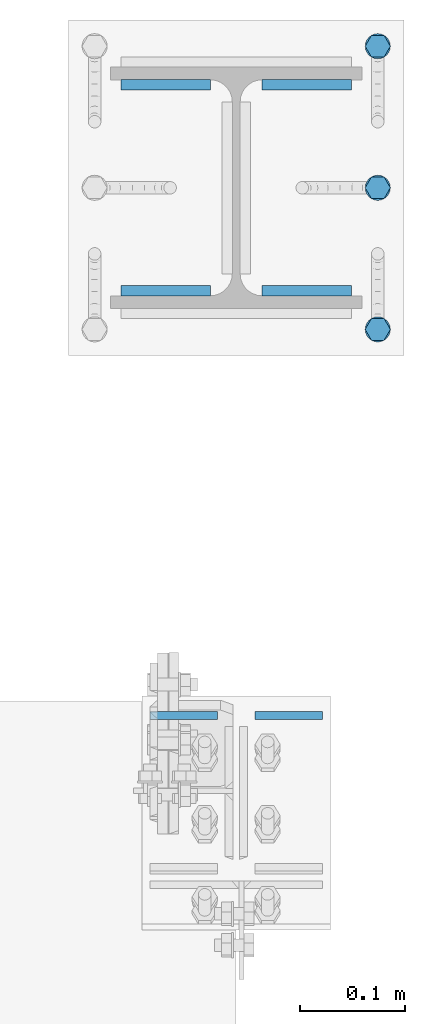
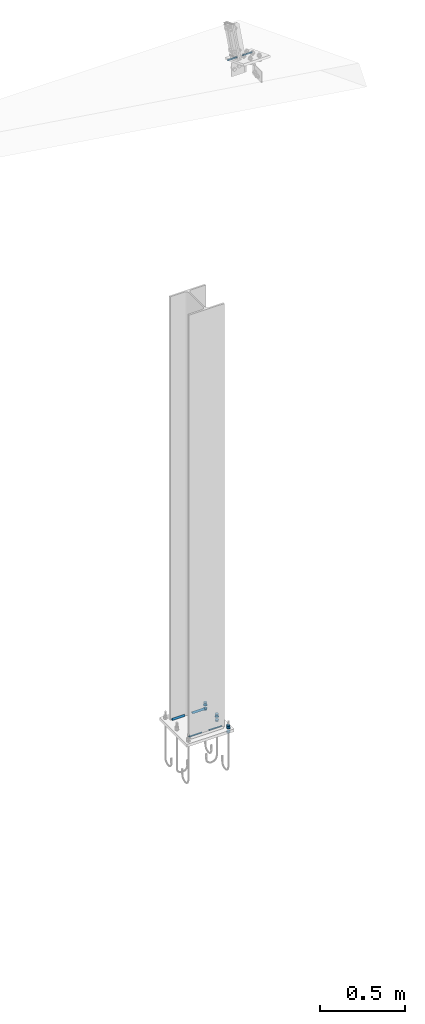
# One storey, part 71 of 72: 15 mechanical fasteners, 12 fasteners.
"""IFC4 building model written with IfcOpenShell, lengths in metres."""

from ifc_helpers import new_model, si_unit, frame, origin_with_axes, place, context, project, spatial, polyline, outline, extrude, type_object, element, save


model = new_model("IFC4")

# Units and contexts
model_context = context("Model", 3, precision=1e-05, world=origin_with_axes())
ifc_project = project(units=[si_unit("LENGTHUNIT", "METRE"), si_unit("AREAUNIT", "SQUARE_METRE"), si_unit("VOLUMEUNIT", "CUBIC_METRE"), si_unit("MASSUNIT", "GRAM", prefix="KILO"), si_unit("TIMEUNIT", "SECOND"), si_unit("PLANEANGLEUNIT", "RADIAN"), si_unit("SOLIDANGLEUNIT", "STERADIAN"), si_unit("THERMODYNAMICTEMPERATUREUNIT", "DEGREE_CELSIUS")], contexts=[model_context])

# Site, building, storey
placement_1 = place(None, origin_with_axes())
site = spatial("IfcSite", under=ifc_project, at=placement_1, Name="Italia", CompositionType="ELEMENT")
building = spatial("IfcBuilding", under=site, at=placement_1, Name="Uffici", CompositionType="ELEMENT")
storey = spatial("IfcBuildingStorey", under=building, at=placement_1, Name="Storey 0", CompositionType="ELEMENT", Elevation=0.0)

# Fasteners
fastener_type_1 = type_object("IfcFastenerType", Name="Collegamenti 0001_0101 0002_0102 0003_0103 0004_0104 0005_0105 0011_0111 0012_0112 0013_0113 0014_0114 0015_0115", PredefinedType="WELD")
placement_2 = place(placement_1, origin_with_axes())
fastener_1_placement = place(placement_2, origin_with_axes())
element("IfcFastener", 1, at=fastener_1_placement, inside=storey, type_object=fastener_type_1, Name="Collegamenti 0001_0101 0002_0102 0003_0103 0004_0104 0005_0105 0011_0111 0012_0112 0013_0113 0014_0114 0015_0115", context=model_context, shape_type="SweptSolid", body=[
    extrude(outline(polyline([(0.0, 0.0), (0.00986814, 0.0101734), (0.00986814, 0.0), (0.0, 0.0)])), frame((13.9947, 5.48318, 0.01995), z_axis=(1.0, 0.0, 0.0), x_axis=(0.0, 1.0, 0.0)), (0.0, 0.0, 1.0), 0.08535),
])
fastener_type_2 = type_object("IfcFastenerType", Name="Collegamenti 0001_0101 0002_0102 0003_0103 0004_0104 0005_0105 0011_0111 0012_0112 0013_0113 0014_0114 0015_0115", PredefinedType="WELD")
fastener_2_placement = place(placement_2, origin_with_axes())
element("IfcFastener", 2, at=fastener_2_placement, inside=storey, type_object=fastener_type_2, Name="Collegamenti 0001_0101 0002_0102 0003_0103 0004_0104 0005_0105 0011_0111 0012_0112 0013_0113 0014_0114 0015_0115", context=model_context, shape_type="SweptSolid", body=[
    extrude(outline(polyline([(0.0, 0.0), (0.00986814, 0.0101734), (0.00986814, 0.0), (0.0, 0.0)])), frame((14.0801, 5.29682, 0.01995), z_axis=(-1.0, 0.0, 0.0), x_axis=(0.0, -1.0, 0.0)), (0.0, 0.0, 1.0), 0.08535),
])
fastener_type_3 = type_object("IfcFastenerType", Name="Collegamenti 0001_0101 0002_0102 0003_0103 0004_0104 0005_0105 0011_0111 0012_0112 0013_0113 0014_0114 0015_0115", PredefinedType="WELD")
fastener_3_placement = place(placement_2, origin_with_axes())
element("IfcFastener", 3, at=fastener_3_placement, inside=storey, type_object=fastener_type_3, Name="Collegamenti 0001_0101 0002_0102 0003_0103 0004_0104 0005_0105 0011_0111 0012_0112 0013_0113 0014_0114 0015_0115", context=model_context, shape_type="SweptSolid", body=[
    extrude(outline(polyline([(0.0, 0.0), (0.00986814, 0.0101734), (0.00986814, 0.0), (0.0, 0.0)])), frame((13.9453, 5.29682, 0.01995), z_axis=(-1.0, 0.0, 0.0), x_axis=(0.0, -1.0, 0.0)), (0.0, 0.0, 1.0), 0.08535),
])
fastener_type_4 = type_object("IfcFastenerType", Name="Collegamenti 0001_0101 0002_0102 0003_0103 0004_0104 0005_0105 0011_0111 0012_0112 0013_0113 0014_0114 0015_0115", PredefinedType="WELD")
fastener_4_placement = place(placement_2, origin_with_axes())
element("IfcFastener", 4, at=fastener_4_placement, inside=storey, type_object=fastener_type_4, Name="Collegamenti 0001_0101 0002_0102 0003_0103 0004_0104 0005_0105 0011_0111 0012_0112 0013_0113 0014_0114 0015_0115", context=model_context, shape_type="SweptSolid", body=[
    extrude(outline(polyline([(0.0, 0.0), (0.00986814, 0.0101734), (0.00986814, 0.0), (0.0, 0.0)])), frame((13.86, 5.48318, 0.01995), z_axis=(1.0, 0.0, 0.0), x_axis=(0.0, 1.0, 0.0)), (0.0, 0.0, 1.0), 0.08535),
])
fastener_type_5 = type_object("IfcFastenerType", Name="Collegamenti 0001_0101 0002_0102 0003_0103 0004_0104 0005_0105 0011_0111 0012_0112 0013_0113 0014_0114 0015_0115", PredefinedType="WELD")
fastener_5_placement = place(placement_2, origin_with_axes())
element("IfcFastener", 5, at=fastener_5_placement, inside=storey, type_object=fastener_type_5, Name="Collegamenti 0001_0101 0002_0102 0003_0103 0004_0104 0005_0105 0011_0111 0012_0112 0013_0113 0014_0114 0015_0115", context=model_context, shape_type="SweptSolid", body=[
    extrude(outline(polyline([(0.0, 0.0), (0.00986814, 0.0101734), (0.00986814, 0.0), (0.0, 0.0)])), frame((13.9947, 5.48318, 0.01995), z_axis=(1.0, 0.0, 0.0), x_axis=(0.0, 1.0, 0.0)), (0.0, 0.0, 1.0), 0.08535),
])
fastener_type_6 = type_object("IfcFastenerType", Name="Collegamenti 0001_0101 0002_0102 0003_0103 0004_0104 0005_0105 0011_0111 0012_0112 0013_0113 0014_0114 0015_0115", PredefinedType="WELD")
fastener_6_placement = place(placement_2, origin_with_axes())
element("IfcFastener", 6, at=fastener_6_placement, inside=storey, type_object=fastener_type_6, Name="Collegamenti 0001_0101 0002_0102 0003_0103 0004_0104 0005_0105 0011_0111 0012_0112 0013_0113 0014_0114 0015_0115", context=model_context, shape_type="SweptSolid", body=[
    extrude(outline(polyline([(0.0, 0.0), (0.00986814, 0.0101734), (0.00986814, 0.0), (0.0, 0.0)])), frame((14.0801, 5.29682, 0.01995), z_axis=(-1.0, 0.0, 0.0), x_axis=(0.0, -1.0, 0.0)), (0.0, 0.0, 1.0), 0.08535),
])
fastener_type_7 = type_object("IfcFastenerType", Name="Collegamenti 0001_0101 0002_0102 0003_0103 0004_0104 0005_0105 0011_0111 0012_0112 0013_0113 0014_0114 0015_0115", PredefinedType="WELD")
fastener_7_placement = place(placement_2, origin_with_axes())
element("IfcFastener", 7, at=fastener_7_placement, inside=storey, type_object=fastener_type_7, Name="Collegamenti 0001_0101 0002_0102 0003_0103 0004_0104 0005_0105 0011_0111 0012_0112 0013_0113 0014_0114 0015_0115", context=model_context, shape_type="SweptSolid", body=[
    extrude(outline(polyline([(0.0, 0.0), (0.00986814, 0.0101734), (0.00986814, 0.0), (0.0, 0.0)])), frame((13.9453, 5.29682, 0.01995), z_axis=(-1.0, 0.0, 0.0), x_axis=(0.0, -1.0, 0.0)), (0.0, 0.0, 1.0), 0.08535),
])
fastener_type_8 = type_object("IfcFastenerType", Name="Collegamenti 0001_0101 0002_0102 0003_0103 0004_0104 0005_0105 0011_0111 0012_0112 0013_0113 0014_0114 0015_0115", PredefinedType="WELD")
fastener_8_placement = place(placement_2, origin_with_axes())
element("IfcFastener", 8, at=fastener_8_placement, inside=storey, type_object=fastener_type_8, Name="Collegamenti 0001_0101 0002_0102 0003_0103 0004_0104 0005_0105 0011_0111 0012_0112 0013_0113 0014_0114 0015_0115", context=model_context, shape_type="SweptSolid", body=[
    extrude(outline(polyline([(0.0, 0.0), (0.00986814, 0.0101734), (0.00986814, 0.0), (0.0, 0.0)])), frame((13.86, 5.48318, 0.01995), z_axis=(1.0, 0.0, 0.0), x_axis=(0.0, 1.0, 0.0)), (0.0, 0.0, 1.0), 0.08535),
])

# Mechanical fasteners
mechanical_fastener_type_1 = type_object("IfcMechanicalFastenerType", Name="Collegamenti 0001_0101 0002_0102 0003_0103 0004_0104 0005_0105 0011_0111 0012_0112 0013_0113 0014_0114 0015_0115", PredefinedType="BOLT")
mechanical_fastener_1_placement = place(placement_2, origin_with_axes())
element("IfcMechanicalFastener", 9, at=mechanical_fastener_1_placement, inside=storey, type_object=mechanical_fastener_type_1, Name="Collegamenti 0001_0101 0002_0102 0003_0103 0004_0104 0005_0105 0011_0111 0012_0112 0013_0113 0014_0114 0015_0115", NominalDiameter=0.0119997, context=model_context, shape_type="SweptSolid", body=[
    extrude(outline(polyline([(0.0, 0.0), (0.0, 0.0120001), (0.0103922, 0.0179996), (0.0207849, 0.0120001), (0.0207849, 0.0), (0.0103922, -0.00600052), (0.0, 0.0)])), frame((14.111, 5.24461, 0.022), z_axis=(0.0, 0.0, 1.0), x_axis=(0.0, 1.0, 0.0)), (0.0, 0.0, 1.0), 0.0096),
])
mechanical_fastener_type_2 = type_object("IfcMechanicalFastenerType", Name="Collegamenti 0001_0101 0002_0102 0003_0103 0004_0104 0005_0105 0011_0111 0012_0112 0013_0113 0014_0114 0015_0115", PredefinedType="BOLT")
mechanical_fastener_2_placement = place(placement_2, origin_with_axes())
element("IfcMechanicalFastener", 10, at=mechanical_fastener_2_placement, inside=storey, type_object=mechanical_fastener_type_2, Name="Collegamenti 0001_0101 0002_0102 0003_0103 0004_0104 0005_0105 0011_0111 0012_0112 0013_0113 0014_0114 0015_0115", NominalDiameter=0.0119997, context=model_context, shape_type="SweptSolid", body=[
    extrude(outline(polyline([(0.0, 0.0), (0.0, 0.0120001), (0.0103922, 0.0179996), (0.0207849, 0.0120001), (0.0207849, 0.0), (0.0103922, -0.00600052), (0.0, 0.0)])), frame((14.111, 5.24461, 0.0316), z_axis=(0.0, 0.0, 1.0), x_axis=(0.0, 1.0, 0.0)), (0.0, 0.0, 1.0), 0.0096),
])
mechanical_fastener_type_3 = type_object("IfcMechanicalFastenerType", Name="Collegamenti 0001_0101 0002_0102 0003_0103 0004_0104 0005_0105 0011_0111 0012_0112 0013_0113 0014_0114 0015_0115", PredefinedType="BOLT")
mechanical_fastener_3_placement = place(placement_2, origin_with_axes())
element("IfcMechanicalFastener", 11, at=mechanical_fastener_3_placement, inside=storey, type_object=mechanical_fastener_type_3, Name="Collegamenti 0001_0101 0002_0102 0003_0103 0004_0104 0005_0105 0011_0111 0012_0112 0013_0113 0014_0114 0015_0115", NominalDiameter=0.0119997, context=model_context, shape_type="SweptSolid", body=[
    extrude(outline(polyline([(0.0, 0.0), (0.0, 0.0120001), (0.0103922, 0.0179996), (0.0207849, 0.0120001), (0.0207849, 0.0), (0.0103922, -0.00600052), (0.0, 0.0)])), frame((14.111, 5.24461, -0.0116), z_axis=(0.0, 0.0, 1.0), x_axis=(0.0, 1.0, 0.0)), (0.0, 0.0, 1.0), 0.0096),
])
mechanical_fastener_type_4 = type_object("IfcMechanicalFastenerType", Name="Collegamenti 0001_0101 0002_0102 0003_0103 0004_0104 0005_0105 0011_0111 0012_0112 0013_0113 0014_0114 0015_0115", PredefinedType="BOLT")
mechanical_fastener_4_placement = place(placement_2, origin_with_axes())
element("IfcMechanicalFastener", 12, at=mechanical_fastener_4_placement, inside=storey, type_object=mechanical_fastener_type_4, Name="Collegamenti 0001_0101 0002_0102 0003_0103 0004_0104 0005_0105 0011_0111 0012_0112 0013_0113 0014_0114 0015_0115", NominalDiameter=0.024, context=model_context, shape_type="SweptSolid", body=[
    extrude(outline(polyline([(0.0, 0.0), (-0.000409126, -0.00310612), (-0.00160789, -0.00599957), (-0.00351477, -0.00848484), (-0.00600004, -0.0103922), (-0.00889444, -0.011591), (-0.0120001, -0.0120001), (-0.0151057, -0.011591), (-0.0180001, -0.0103922), (-0.0204854, -0.00848484), (-0.0223923, -0.00599957), (-0.023591, -0.00310612), (-0.0240002, 0.0), (-0.023591, 0.00310612), (-0.0223923, 0.00599957), (-0.0204854, 0.00848484), (-0.0180001, 0.0103922), (-0.0151057, 0.011591), (-0.0120001, 0.0120001), (-0.00889444, 0.011591), (-0.00600004, 0.0103922), (-0.00351477, 0.00848484), (-0.00160789, 0.00599957), (-0.000409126, 0.00310612), (0.0, 0.0)])), frame((14.105, 5.267, 0.02), z_axis=(0.0, 0.0, 1.0), x_axis=(0.0, 1.0, 0.0)), (0.0, 0.0, 1.0), 0.002),
])
mechanical_fastener_type_5 = type_object("IfcMechanicalFastenerType", Name="Collegamenti 0001_0101 0002_0102 0003_0103 0004_0104 0005_0105 0011_0111 0012_0112 0013_0113 0014_0114 0015_0115", PredefinedType="BOLT")
mechanical_fastener_5_placement = place(placement_2, origin_with_axes())
element("IfcMechanicalFastener", 13, at=mechanical_fastener_5_placement, inside=storey, type_object=mechanical_fastener_type_5, Name="Collegamenti 0001_0101 0002_0102 0003_0103 0004_0104 0005_0105 0011_0111 0012_0112 0013_0113 0014_0114 0015_0115", NominalDiameter=0.024, context=model_context, shape_type="SweptSolid", body=[
    extrude(outline(polyline([(0.0, 0.0), (-0.000409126, -0.00310612), (-0.00160789, -0.00599957), (-0.00351477, -0.00848484), (-0.00600004, -0.0103922), (-0.00889444, -0.011591), (-0.0120001, -0.0120001), (-0.0151057, -0.011591), (-0.0180001, -0.0103922), (-0.0204854, -0.00848484), (-0.0223923, -0.00599957), (-0.023591, -0.00310612), (-0.0240002, 0.0), (-0.023591, 0.00310612), (-0.0223923, 0.00599957), (-0.0204854, 0.00848484), (-0.0180001, 0.0103922), (-0.0151057, 0.011591), (-0.0120001, 0.0120001), (-0.00889444, 0.011591), (-0.00600004, 0.0103922), (-0.00351477, 0.00848484), (-0.00160789, 0.00599957), (-0.000409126, 0.00310612), (0.0, 0.0)])), frame((14.105, 5.267, -0.002), z_axis=(0.0, 0.0, 1.0), x_axis=(0.0, 1.0, 0.0)), (0.0, 0.0, 1.0), 0.002),
])
mechanical_fastener_type_6 = type_object("IfcMechanicalFastenerType", Name="Collegamenti 0001_0101 0002_0102 0003_0103 0004_0104 0005_0105 0011_0111 0012_0112 0013_0113 0014_0114 0015_0115", PredefinedType="BOLT")
mechanical_fastener_6_placement = place(placement_2, origin_with_axes())
element("IfcMechanicalFastener", 14, at=mechanical_fastener_6_placement, inside=storey, type_object=mechanical_fastener_type_6, Name="Collegamenti 0001_0101 0002_0102 0003_0103 0004_0104 0005_0105 0011_0111 0012_0112 0013_0113 0014_0114 0015_0115", NominalDiameter=0.0119997, context=model_context, shape_type="SweptSolid", body=[
    extrude(outline(polyline([(0.0, 0.0), (0.0, 0.0120001), (0.0103922, 0.0179996), (0.0207844, 0.0120001), (0.0207844, 0.0), (0.0103922, -0.00600052), (0.0, 0.0)])), frame((14.111, 5.37961, 0.022), z_axis=(0.0, 0.0, 1.0), x_axis=(0.0, 1.0, 0.0)), (0.0, 0.0, 1.0), 0.0096),
])
mechanical_fastener_type_7 = type_object("IfcMechanicalFastenerType", Name="Collegamenti 0001_0101 0002_0102 0003_0103 0004_0104 0005_0105 0011_0111 0012_0112 0013_0113 0014_0114 0015_0115", PredefinedType="BOLT")
mechanical_fastener_7_placement = place(placement_2, origin_with_axes())
element("IfcMechanicalFastener", 15, at=mechanical_fastener_7_placement, inside=storey, type_object=mechanical_fastener_type_7, Name="Collegamenti 0001_0101 0002_0102 0003_0103 0004_0104 0005_0105 0011_0111 0012_0112 0013_0113 0014_0114 0015_0115", NominalDiameter=0.0119997, context=model_context, shape_type="SweptSolid", body=[
    extrude(outline(polyline([(0.0, 0.0), (0.0, 0.0120001), (0.0103922, 0.0179996), (0.0207844, 0.0120001), (0.0207844, 0.0), (0.0103922, -0.00600052), (0.0, 0.0)])), frame((14.111, 5.37961, 0.0316), z_axis=(0.0, 0.0, 1.0), x_axis=(0.0, 1.0, 0.0)), (0.0, 0.0, 1.0), 0.0096),
])
mechanical_fastener_type_8 = type_object("IfcMechanicalFastenerType", Name="Collegamenti 0001_0101 0002_0102 0003_0103 0004_0104 0005_0105 0011_0111 0012_0112 0013_0113 0014_0114 0015_0115", PredefinedType="BOLT")
mechanical_fastener_8_placement = place(placement_2, origin_with_axes())
element("IfcMechanicalFastener", 16, at=mechanical_fastener_8_placement, inside=storey, type_object=mechanical_fastener_type_8, Name="Collegamenti 0001_0101 0002_0102 0003_0103 0004_0104 0005_0105 0011_0111 0012_0112 0013_0113 0014_0114 0015_0115", NominalDiameter=0.0119997, context=model_context, shape_type="SweptSolid", body=[
    extrude(outline(polyline([(0.0, 0.0), (0.0, 0.0120001), (0.0103922, 0.0179996), (0.0207844, 0.0120001), (0.0207844, 0.0), (0.0103922, -0.00600052), (0.0, 0.0)])), frame((14.111, 5.37961, -0.0116), z_axis=(0.0, 0.0, 1.0), x_axis=(0.0, 1.0, 0.0)), (0.0, 0.0, 1.0), 0.0096),
])
mechanical_fastener_type_9 = type_object("IfcMechanicalFastenerType", Name="Collegamenti 0001_0101 0002_0102 0003_0103 0004_0104 0005_0105 0011_0111 0012_0112 0013_0113 0014_0114 0015_0115", PredefinedType="BOLT")
mechanical_fastener_9_placement = place(placement_2, origin_with_axes())
element("IfcMechanicalFastener", 17, at=mechanical_fastener_9_placement, inside=storey, type_object=mechanical_fastener_type_9, Name="Collegamenti 0001_0101 0002_0102 0003_0103 0004_0104 0005_0105 0011_0111 0012_0112 0013_0113 0014_0114 0015_0115", NominalDiameter=0.024, context=model_context, shape_type="SweptSolid", body=[
    extrude(outline(polyline([(0.0, 0.0), (-0.000409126, -0.00310612), (-0.00160789, -0.00599957), (-0.00351477, -0.00848484), (-0.00600004, -0.0103922), (-0.00889444, -0.011591), (-0.0120001, -0.0120001), (-0.0151057, -0.011591), (-0.0180001, -0.0103922), (-0.0204854, -0.00848484), (-0.0223923, -0.00599957), (-0.023591, -0.00310612), (-0.0240002, 0.0), (-0.023591, 0.00310612), (-0.0223923, 0.00599957), (-0.0204854, 0.00848484), (-0.0180001, 0.0103922), (-0.0151057, 0.011591), (-0.0120001, 0.0120001), (-0.00889444, 0.011591), (-0.00600004, 0.0103922), (-0.00351477, 0.00848484), (-0.00160789, 0.00599957), (-0.000409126, 0.00310612), (0.0, 0.0)])), frame((14.105, 5.402, 0.02), z_axis=(0.0, 0.0, 1.0), x_axis=(0.0, 1.0, 0.0)), (0.0, 0.0, 1.0), 0.002),
])
mechanical_fastener_type_10 = type_object("IfcMechanicalFastenerType", Name="Collegamenti 0001_0101 0002_0102 0003_0103 0004_0104 0005_0105 0011_0111 0012_0112 0013_0113 0014_0114 0015_0115", PredefinedType="BOLT")
mechanical_fastener_10_placement = place(placement_2, origin_with_axes())
element("IfcMechanicalFastener", 18, at=mechanical_fastener_10_placement, inside=storey, type_object=mechanical_fastener_type_10, Name="Collegamenti 0001_0101 0002_0102 0003_0103 0004_0104 0005_0105 0011_0111 0012_0112 0013_0113 0014_0114 0015_0115", NominalDiameter=0.024, context=model_context, shape_type="SweptSolid", body=[
    extrude(outline(polyline([(0.0, 0.0), (-0.000409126, -0.00310612), (-0.00160789, -0.00599957), (-0.00351477, -0.00848484), (-0.00600004, -0.0103922), (-0.00889444, -0.011591), (-0.0120001, -0.0120001), (-0.0151057, -0.011591), (-0.0180001, -0.0103922), (-0.0204854, -0.00848484), (-0.0223923, -0.00599957), (-0.023591, -0.00310612), (-0.0240002, 0.0), (-0.023591, 0.00310612), (-0.0223923, 0.00599957), (-0.0204854, 0.00848484), (-0.0180001, 0.0103922), (-0.0151057, 0.011591), (-0.0120001, 0.0120001), (-0.00889444, 0.011591), (-0.00600004, 0.0103922), (-0.00351477, 0.00848484), (-0.00160789, 0.00599957), (-0.000409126, 0.00310612), (0.0, 0.0)])), frame((14.105, 5.402, -0.002), z_axis=(0.0, 0.0, 1.0), x_axis=(0.0, 1.0, 0.0)), (0.0, 0.0, 1.0), 0.002),
])
mechanical_fastener_type_11 = type_object("IfcMechanicalFastenerType", Name="Collegamenti 0001_0101 0002_0102 0003_0103 0004_0104 0005_0105 0011_0111 0012_0112 0013_0113 0014_0114 0015_0115", PredefinedType="BOLT")
mechanical_fastener_11_placement = place(placement_2, origin_with_axes())
element("IfcMechanicalFastener", 19, at=mechanical_fastener_11_placement, inside=storey, type_object=mechanical_fastener_type_11, Name="Collegamenti 0001_0101 0002_0102 0003_0103 0004_0104 0005_0105 0011_0111 0012_0112 0013_0113 0014_0114 0015_0115", NominalDiameter=0.0119997, context=model_context, shape_type="SweptSolid", body=[
    extrude(outline(polyline([(0.0, 0.0), (0.0, 0.0120001), (0.0103927, 0.0179996), (0.0207849, 0.0120001), (0.0207849, 0.0), (0.0103927, -0.00600052), (0.0, 0.0)])), frame((14.111, 5.51461, 0.022), z_axis=(0.0, 0.0, 1.0), x_axis=(0.0, 1.0, 0.0)), (0.0, 0.0, 1.0), 0.0096),
])
mechanical_fastener_type_12 = type_object("IfcMechanicalFastenerType", Name="Collegamenti 0001_0101 0002_0102 0003_0103 0004_0104 0005_0105 0011_0111 0012_0112 0013_0113 0014_0114 0015_0115", PredefinedType="BOLT")
mechanical_fastener_12_placement = place(placement_2, origin_with_axes())
element("IfcMechanicalFastener", 20, at=mechanical_fastener_12_placement, inside=storey, type_object=mechanical_fastener_type_12, Name="Collegamenti 0001_0101 0002_0102 0003_0103 0004_0104 0005_0105 0011_0111 0012_0112 0013_0113 0014_0114 0015_0115", NominalDiameter=0.0119997, context=model_context, shape_type="SweptSolid", body=[
    extrude(outline(polyline([(0.0, 0.0), (0.0, 0.0120001), (0.0103927, 0.0179996), (0.0207849, 0.0120001), (0.0207849, 0.0), (0.0103927, -0.00600052), (0.0, 0.0)])), frame((14.111, 5.51461, 0.0316), z_axis=(0.0, 0.0, 1.0), x_axis=(0.0, 1.0, 0.0)), (0.0, 0.0, 1.0), 0.0096),
])
mechanical_fastener_type_13 = type_object("IfcMechanicalFastenerType", Name="Collegamenti 0001_0101 0002_0102 0003_0103 0004_0104 0005_0105 0011_0111 0012_0112 0013_0113 0014_0114 0015_0115", PredefinedType="BOLT")
mechanical_fastener_13_placement = place(placement_2, origin_with_axes())
element("IfcMechanicalFastener", 21, at=mechanical_fastener_13_placement, inside=storey, type_object=mechanical_fastener_type_13, Name="Collegamenti 0001_0101 0002_0102 0003_0103 0004_0104 0005_0105 0011_0111 0012_0112 0013_0113 0014_0114 0015_0115", NominalDiameter=0.0119997, context=model_context, shape_type="SweptSolid", body=[
    extrude(outline(polyline([(0.0, 0.0), (0.0, 0.0120001), (0.0103927, 0.0179996), (0.0207849, 0.0120001), (0.0207849, 0.0), (0.0103927, -0.00600052), (0.0, 0.0)])), frame((14.111, 5.51461, -0.0116), z_axis=(0.0, 0.0, 1.0), x_axis=(0.0, 1.0, 0.0)), (0.0, 0.0, 1.0), 0.0096),
])
mechanical_fastener_type_14 = type_object("IfcMechanicalFastenerType", Name="Collegamenti 0001_0101 0002_0102 0003_0103 0004_0104 0005_0105 0011_0111 0012_0112 0013_0113 0014_0114 0015_0115", PredefinedType="BOLT")
mechanical_fastener_14_placement = place(placement_2, origin_with_axes())
element("IfcMechanicalFastener", 22, at=mechanical_fastener_14_placement, inside=storey, type_object=mechanical_fastener_type_14, Name="Collegamenti 0001_0101 0002_0102 0003_0103 0004_0104 0005_0105 0011_0111 0012_0112 0013_0113 0014_0114 0015_0115", NominalDiameter=0.024, context=model_context, shape_type="SweptSolid", body=[
    extrude(outline(polyline([(0.0, 0.0), (-0.000409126, -0.00310612), (-0.00160789, -0.00599957), (-0.00351477, -0.00848484), (-0.00600004, -0.0103922), (-0.00889444, -0.011591), (-0.0120001, -0.0120001), (-0.0151057, -0.011591), (-0.0180001, -0.0103922), (-0.0204854, -0.00848484), (-0.0223923, -0.00599957), (-0.023591, -0.00310612), (-0.0240002, 0.0), (-0.023591, 0.00310612), (-0.0223923, 0.00599957), (-0.0204854, 0.00848484), (-0.0180001, 0.0103922), (-0.0151057, 0.011591), (-0.0120001, 0.0120001), (-0.00889444, 0.011591), (-0.00600004, 0.0103922), (-0.00351477, 0.00848484), (-0.00160789, 0.00599957), (-0.000409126, 0.00310612), (0.0, 0.0)])), frame((14.105, 5.537, 0.02), z_axis=(0.0, 0.0, 1.0), x_axis=(0.0, 1.0, 0.0)), (0.0, 0.0, 1.0), 0.002),
])
mechanical_fastener_type_15 = type_object("IfcMechanicalFastenerType", Name="Collegamenti 0001_0101 0002_0102 0003_0103 0004_0104 0005_0105 0011_0111 0012_0112 0013_0113 0014_0114 0015_0115", PredefinedType="BOLT")
mechanical_fastener_15_placement = place(placement_2, origin_with_axes())
element("IfcMechanicalFastener", 23, at=mechanical_fastener_15_placement, inside=storey, type_object=mechanical_fastener_type_15, Name="Collegamenti 0001_0101 0002_0102 0003_0103 0004_0104 0005_0105 0011_0111 0012_0112 0013_0113 0014_0114 0015_0115", NominalDiameter=0.024, context=model_context, shape_type="SweptSolid", body=[
    extrude(outline(polyline([(0.0, 0.0), (-0.000409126, -0.00310612), (-0.00160789, -0.00599957), (-0.00351477, -0.00848484), (-0.00600004, -0.0103922), (-0.00889444, -0.011591), (-0.0120001, -0.0120001), (-0.0151057, -0.011591), (-0.0180001, -0.0103922), (-0.0204854, -0.00848484), (-0.0223923, -0.00599957), (-0.023591, -0.00310612), (-0.0240002, 0.0), (-0.023591, 0.00310612), (-0.0223923, 0.00599957), (-0.0204854, 0.00848484), (-0.0180001, 0.0103922), (-0.0151057, 0.011591), (-0.0120001, 0.0120001), (-0.00889444, 0.011591), (-0.00600004, 0.0103922), (-0.00351477, 0.00848484), (-0.00160789, 0.00599957), (-0.000409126, 0.00310612), (0.0, 0.0)])), frame((14.105, 5.537, -0.002), z_axis=(0.0, 0.0, 1.0), x_axis=(0.0, 1.0, 0.0)), (0.0, 0.0, 1.0), 0.002),
])

# Fasteners
fastener_type_9 = type_object("IfcFastenerType", Name="Collegamento 0210_0110", PredefinedType="WELD")
fastener_9_placement = place(placement_2, origin_with_axes())
element("IfcFastener", 24, at=fastener_9_placement, inside=storey, type_object=fastener_type_9, Name="Collegamento 0210_0110", context=model_context, shape_type="SweptSolid", body=[
    extrude(outline(polyline([(0.0, 0.0), (-0.00443745, -0.0104866), (-0.00739193, -0.00286627), (0.0, 0.0)])), frame((14.0521, 4.88317, 5.09453), z_axis=(-1.0, 0.0, 0.0), x_axis=(0.0, -1.0, 0.0)), (0.0, 0.0, 1.0), 0.0641003),
])
fastener_type_10 = type_object("IfcFastenerType", Name="Collegamento 0210_0110", PredefinedType="WELD")
fastener_10_placement = place(placement_2, origin_with_axes())
element("IfcFastener", 25, at=fastener_10_placement, inside=storey, type_object=fastener_type_10, Name="Collegamento 0210_0110", context=model_context, shape_type="SweptSolid", body=[
    extrude(outline(polyline([(0.0, 0.0), (-0.00443745, -0.0104866), (-0.00739193, -0.00286627), (0.0, 0.0)])), frame((13.9521, 4.88317, 5.09453), z_axis=(-1.0, 0.0, 0.0), x_axis=(0.0, -1.0, 0.0)), (0.0, 0.0, 1.0), 0.0641003),
])
fastener_type_11 = type_object("IfcFastenerType", Name="Collegamento 0210_0110", PredefinedType="WELD")
fastener_11_placement = place(placement_2, origin_with_axes())
element("IfcFastener", 26, at=fastener_11_placement, inside=storey, type_object=fastener_type_11, Name="Collegamento 0210_0110", context=model_context, shape_type="SweptSolid", body=[
    extrude(outline(polyline([(0.0, 0.0), (-0.00443745, -0.0104866), (-0.00739193, -0.00286627), (0.0, 0.0)])), frame((14.0521, 4.88317, 5.09453), z_axis=(-1.0, 0.0, 0.0), x_axis=(0.0, -1.0, 0.0)), (0.0, 0.0, 1.0), 0.0641003),
])
fastener_type_12 = type_object("IfcFastenerType", Name="Collegamento 0210_0110", PredefinedType="WELD")
fastener_12_placement = place(placement_2, origin_with_axes())
element("IfcFastener", 27, at=fastener_12_placement, inside=storey, type_object=fastener_type_12, Name="Collegamento 0210_0110", context=model_context, shape_type="SweptSolid", body=[
    extrude(outline(polyline([(0.0, 0.0), (-0.00443745, -0.0104866), (-0.00739193, -0.00286627), (0.0, 0.0)])), frame((13.9521, 4.88317, 5.09453), z_axis=(-1.0, 0.0, 0.0), x_axis=(0.0, -1.0, 0.0)), (0.0, 0.0, 1.0), 0.0641003),
])

save(model, "model.ifc")
